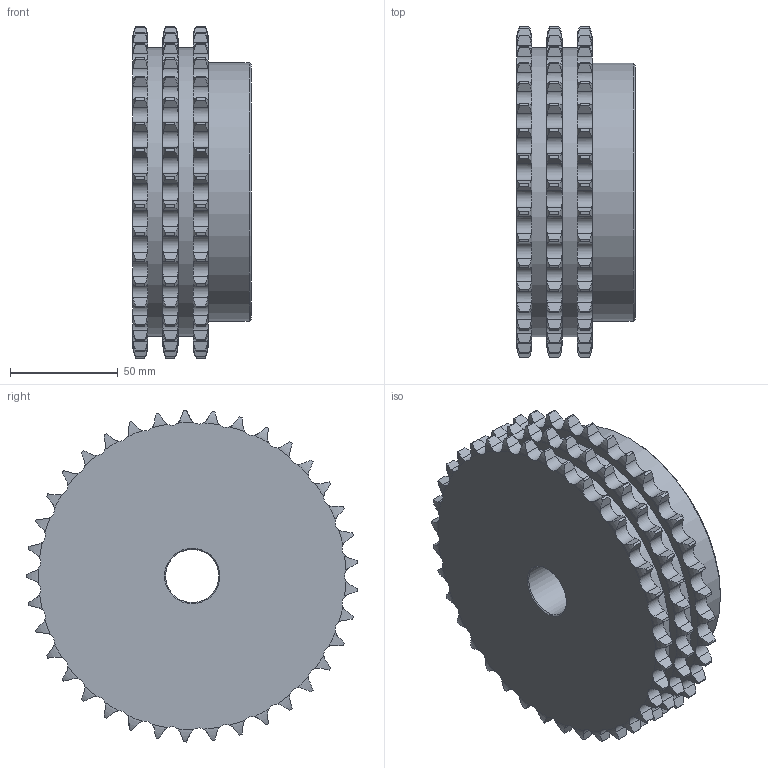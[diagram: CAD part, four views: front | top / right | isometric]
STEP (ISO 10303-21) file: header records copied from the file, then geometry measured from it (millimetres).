
FILE_DESCRIPTION(/* description */ (''),/* implementation_level */ '2;1');
FILE_NAME(/* name */ 'C:\Users\stagistaCAD\Desktop\10312037.stp',/* time_stamp */ '2018-06-22T12:04:50+02:00',/* author */ ('stagistacad'),/* organization */ (''),/* preprocessor_version */ 'ST-DEVELOPER v15.6',/* originating_system */ 'Autodesk Inventor 2015',/* authorisation */ '');
FILE_SCHEMA (('AUTOMOTIVE_DESIGN { 1 0 10303 214 3 1 1 }'));
Length unit declared in the file: millimetre
Products named in the file (1): 10312037
Bounding box: 55 x 154.01 x 154.15 mm (x, y, z)
Volume: 747446 mm3; surface area: 73866.9 mm2
Topology: 1 solids, 1 shells, 680 faces, 2090 edges, 1417 vertices
Faces by surface type: cylinder 448, torus 222, plane 7, cone 3
Full cylindrical faces by diameter (mm): 24.7 x1, 120 x1, 134.24 x2
Entity records: 26366 total; most frequent: CARTESIAN_POINT 8879, ORIENTED_EDGE 4166, DIRECTION 3160, EDGE_CURVE 2083, VERTEX_POINT 1417, AXIS2_PLACEMENT_3D 1358, B_SPLINE_CURVE_WITH_KNOTS 962, EDGE_LOOP 694
